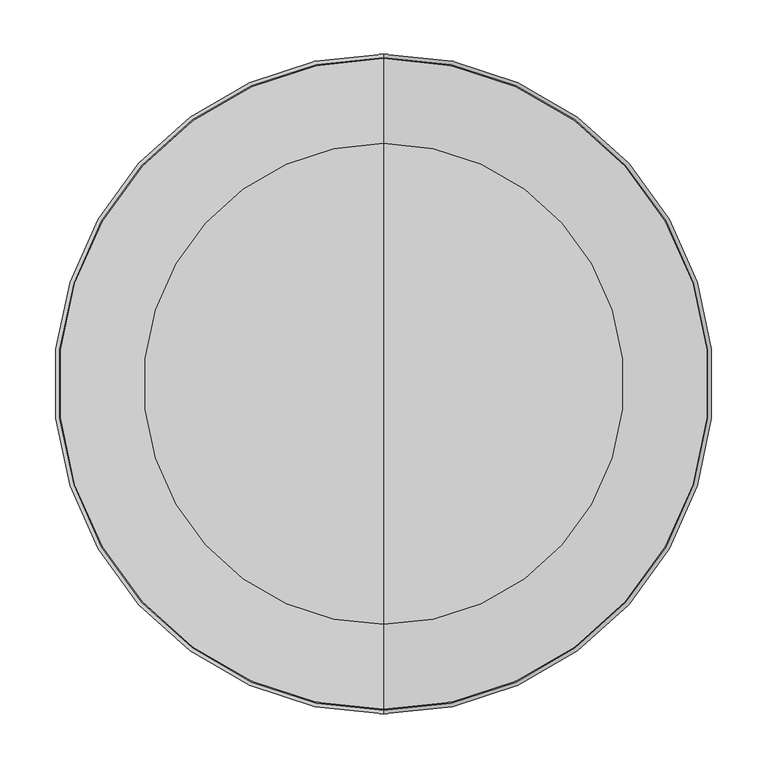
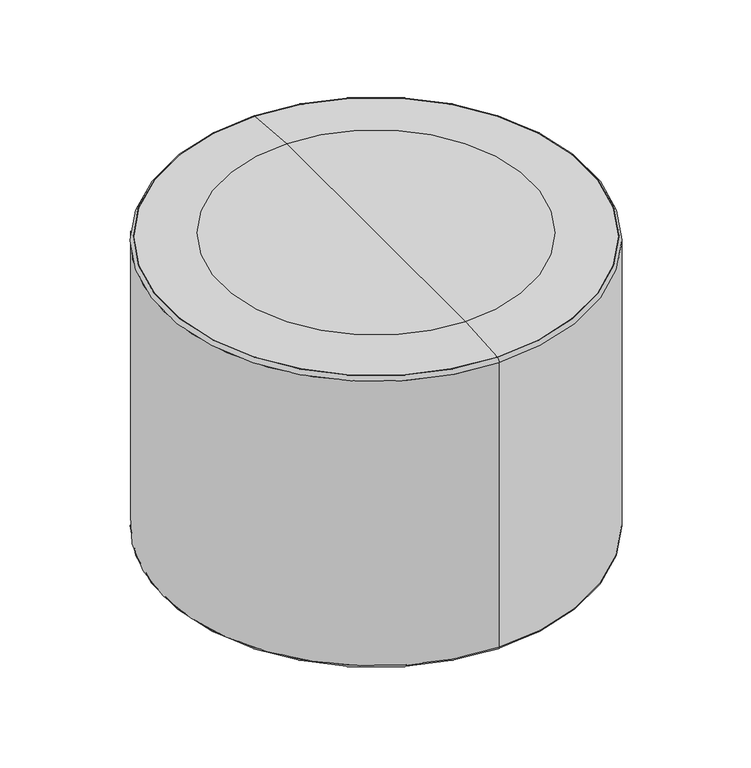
"""IFC4 building model written with IfcOpenShell, lengths in millimetres: furniture geometry, Indiana-Otty-Ottoman_Round : 840-2418RO."""

from ifc_helpers import new_model, si_unit, point, frame, origin, place, context, project, spatial, polyline, circle_curve, ellipse_curve, trimmed, source, transform, mapped, element, save
from ifc_brep_helpers import plane_surface, cylinder_surface, revolved_surface, advanced_brep


def furniture_891c9925(model_context):
    return source(origin(), model_context, "Body", "AdvancedBrep", [
        advanced_brep(
        [(237.5670449, 57.5253392, 19.8875), (218.0814733, 68.7753392, 19.8875), (257.0526165, 46.2753392, 19.8875), (218.4698785, 68.5510934, 4.2458827), (256.6642112, 46.4995851, 4.2458827), (222.3541253, 66.3085225, -0.1125), (252.7799645, 48.742156, -0.1125), (228.675027, 62.6591482, -0.1125), (246.4590628, 52.3915303, -0.1125), (232.0477423, 60.7119101, 3.9179615), (243.0863475, 54.3387684, 3.9179615), (237.5670449, 57.5253392, 3.9179615)],
        [
            (0, 1),
            (1, 2, circle_curve(frame((237.5670449, 57.5253392, 19.8875), z_axis=(0.0, 0.0, 1.0), x_axis=(-0.8660254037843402, 0.5000000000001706, 0.0)), 22.5)),
            (2, 0),
            (2, 1, circle_curve(frame((237.5670449, 57.5253392, 19.8875), z_axis=(0.0, 0.0, 1.0), x_axis=(-0.8660254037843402, 0.5000000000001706, 0.0)), 22.5)),
            (1, 3),
            (3, 4, circle_curve(frame((237.5670449, 57.5253392, 4.2458827), z_axis=(0.0, 0.0, 1.0), x_axis=(-0.8660254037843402, 0.5000000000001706, 0.0)), 22.0515082)),
            (4, 2),
            (4, 3, circle_curve(frame((237.5670449, 57.5253392, 4.2458827), z_axis=(0.0, 0.0, 1.0), x_axis=(-0.8660254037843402, 0.5000000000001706, 0.0)), 22.0515082)),
            (3, 5, circle_curve(frame((222.3541253, 66.3085225, 4.3744851), z_axis=(-0.5000000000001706, -0.8660254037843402, 0.0), x_axis=(0.8660254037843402, -0.5000000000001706, 0.0)), 4.4869851)),
            (5, 6, circle_curve(frame((237.5670449, 57.5253392, -0.1125), z_axis=(0.0, 0.0, 1.0), x_axis=(-0.8660254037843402, 0.5000000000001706, 0.0)), 17.5663665)),
            (6, 4, circle_curve(frame((252.7799645, 48.742156, 4.3744851), z_axis=(-0.5000000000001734, -0.8660254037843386, 0.0), x_axis=(-0.8660254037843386, 0.5000000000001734, 0.0)), 4.4869851)),
            (6, 5, circle_curve(frame((237.5670449, 57.5253392, -0.1125), z_axis=(0.0, 0.0, 1.0), x_axis=(-0.8660254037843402, 0.5000000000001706, 0.0)), 17.5663665)),
            (5, 7),
            (7, 8, circle_curve(frame((237.5670449, 57.5253392, -0.1125), z_axis=(0.0, 0.0, 1.0), x_axis=(-0.8660254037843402, 0.5000000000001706, 0.0)), 10.2676178)),
            (8, 6),
            (8, 7, circle_curve(frame((237.5670449, 57.5253392, -0.1125), z_axis=(0.0, 0.0, 1.0), x_axis=(-0.8660254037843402, 0.5000000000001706, 0.0)), 10.2676178)),
            (7, 9, circle_curve(frame((228.675027, 62.6591482, 3.7842702), z_axis=(-0.5000000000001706, -0.8660254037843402, 0.0), x_axis=(0.8660254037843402, -0.5000000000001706, 0.0)), 3.8967702)),
            (9, 10, circle_curve(frame((237.5670449, 57.5253392, 3.9179615), z_axis=(0.0, 0.0, 1.0), x_axis=(-0.8660254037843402, 0.5000000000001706, 0.0)), 6.3731417)),
            (10, 8, circle_curve(frame((246.4590628, 52.3915303, 3.7842702), z_axis=(-0.5000000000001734, -0.8660254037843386, 0.0), x_axis=(-0.8660254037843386, 0.5000000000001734, 0.0)), 3.8967702)),
            (10, 9, circle_curve(frame((237.5670449, 57.5253392, 3.9179615), z_axis=(0.0, 0.0, 1.0), x_axis=(-0.8660254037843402, 0.5000000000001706, 0.0)), 6.3731417)),
            (9, 11),
            (11, 10),
        ],
        [
            plane_surface(frame((237.5670449, 57.5253392, 19.8875), z_axis=(0.0, 0.0, 1.0000000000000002), x_axis=(-0.8660254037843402, 0.5000000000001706, 0.0))),
            revolved_surface(polyline([(218.4698785, 68.5510934, 4.2458827), (218.0814733, 68.7753392, 19.8875)]), (237.5670449, 57.5253392, 31.0803862), (0.0, 0.0, 1.0)),
            revolved_surface(trimmed(ellipse_curve(frame((222.3541253, 66.3085225, 4.3744851), z_axis=(0.5000000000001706, 0.8660254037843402, 0.0), x_axis=(0.8660254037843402, -0.5000000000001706, 0.0)), 4.4869851, 4.4869851), [point((222.3541253, 66.3085225, -0.1125))], [point((218.4698785, 68.5510934, 4.2458827))], True, "CARTESIAN"), (237.5670449, 57.5253392, 31.0803862), (0.0, 0.0, 1.0)),
            plane_surface(frame((237.5670449, 57.5253392, -0.1125), z_axis=(0.0, 0.0, -1.0000000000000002), x_axis=(-0.8660254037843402, 0.5000000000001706, 0.0))),
            revolved_surface(trimmed(ellipse_curve(frame((228.675027, 62.6591482, 3.7842702), z_axis=(0.5000000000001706, 0.8660254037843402, 0.0), x_axis=(0.8660254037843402, -0.5000000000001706, 0.0)), 3.8967702, 3.8967702), [point((232.0477423, 60.7119101, 3.9179615))], [point((228.675027, 62.6591482, -0.1125))], True, "CARTESIAN"), (237.5670449, 57.5253392, 31.0803862), (0.0, 0.0, 1.0)),
            plane_surface(frame((237.5670449, 57.5253392, 3.9179615), z_axis=(0.0, 0.0, -1.0000000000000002), x_axis=(-0.8660254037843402, 0.5000000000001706, 0.0))),
        ],
        [
            (0, [[1, 2, 3]]),
            (0, [[-3, 4, -1]]),
            (1, [[-2, 5, 6, 7]]),
            (1, [[-4, -7, 8, -5]]),
            (2, [[-6, 9, 10, 11]]),
            (2, [[-8, -11, 12, -9]]),
            (3, [[-10, 13, 14, 15]]),
            (3, [[-12, -15, 16, -13]]),
            (4, [[-14, 17, 18, 19]]),
            (4, [[-16, -19, 20, -17]]),
            (5, [[-18, 21, 22]]),
            (5, [[-20, -22, -21]]),
        ],
    ),
        advanced_brep(
        [(168.6019276, -176.9764263, 19.8875), (168.6019276, -154.4764263, 19.8875), (168.6019276, -199.4764263, 19.8875), (168.6019276, -154.9249181, 4.2458827), (168.6019276, -199.0279346, 4.2458827), (168.6019276, -159.4100599, -0.1125), (168.6019276, -194.5427928, -0.1125), (168.6019276, -166.7088085, -0.1125), (168.6019276, -187.2440442, -0.1125), (168.6019276, -170.6032847, 3.9179615), (168.6019276, -183.349568, 3.9179615), (168.6019276, -176.9764263, 3.9179615)],
        [
            (0, 1),
            (1, 2, circle_curve(frame((168.6019276, -176.9764263, 19.8875), z_axis=(0.0, 0.0, 1.0), x_axis=(0.0, 1.0, 0.0)), 22.5)),
            (2, 0),
            (2, 1, circle_curve(frame((168.6019276, -176.9764263, 19.8875), z_axis=(0.0, 0.0, 1.0), x_axis=(0.0, 1.0, 0.0)), 22.5)),
            (1, 3),
            (3, 4, circle_curve(frame((168.6019276, -176.9764263, 4.2458827), z_axis=(0.0, 0.0, 1.0), x_axis=(0.0, 1.0, 0.0)), 22.0515082)),
            (4, 2),
            (4, 3, circle_curve(frame((168.6019276, -176.9764263, 4.2458827), z_axis=(0.0, 0.0, 1.0), x_axis=(0.0, 1.0, 0.0)), 22.0515082)),
            (3, 5, circle_curve(frame((168.6019276, -159.4100599, 4.3744851), z_axis=(-1.0, 0.0, 0.0), x_axis=(0.0, -1.0, 0.0)), 4.4869851)),
            (5, 6, circle_curve(frame((168.6019276, -176.9764263, -0.1125), z_axis=(0.0, 0.0, 1.0), x_axis=(0.0, 1.0, 0.0)), 17.5663665)),
            (6, 4, circle_curve(frame((168.6019276, -194.5427928, 4.3744851), z_axis=(-1.0, 0.0, 0.0), x_axis=(0.0, 1.0, 0.0)), 4.4869851)),
            (6, 5, circle_curve(frame((168.6019276, -176.9764263, -0.1125), z_axis=(0.0, 0.0, 1.0), x_axis=(0.0, 1.0, 0.0)), 17.5663665)),
            (5, 7),
            (7, 8, circle_curve(frame((168.6019276, -176.9764263, -0.1125), z_axis=(0.0, 0.0, 1.0), x_axis=(0.0, 1.0, 0.0)), 10.2676178)),
            (8, 6),
            (8, 7, circle_curve(frame((168.6019276, -176.9764263, -0.1125), z_axis=(0.0, 0.0, 1.0), x_axis=(0.0, 1.0, 0.0)), 10.2676178)),
            (7, 9, circle_curve(frame((168.6019276, -166.7088085, 3.7842702), z_axis=(-1.0, 0.0, 0.0), x_axis=(0.0, -1.0, 0.0)), 3.8967702)),
            (9, 10, circle_curve(frame((168.6019276, -176.9764263, 3.9179615), z_axis=(0.0, 0.0, 1.0), x_axis=(0.0, 1.0, 0.0)), 6.3731417)),
            (10, 8, circle_curve(frame((168.6019276, -187.2440442, 3.7842702), z_axis=(-1.0, 0.0, 0.0), x_axis=(0.0, 1.0, 0.0)), 3.8967702)),
            (10, 9, circle_curve(frame((168.6019276, -176.9764263, 3.9179615), z_axis=(0.0, 0.0, 1.0), x_axis=(0.0, 1.0, 0.0)), 6.3731417)),
            (9, 11),
            (11, 10),
        ],
        [
            plane_surface(frame((168.6019276, -176.9764263, 19.8875), z_axis=(0.0, 0.0, 1.0), x_axis=(0.0, 1.0, 0.0))),
            revolved_surface(polyline([(168.6019276, -154.9249181, 4.2458827), (168.6019276, -154.4764263, 19.8875)]), (168.6019276, -176.9764263, 31.0803862), (0.0, 0.0, 1.0)),
            revolved_surface(trimmed(ellipse_curve(frame((168.6019276, -159.4100599, 4.3744851), z_axis=(1.0, 0.0, 0.0), x_axis=(0.0, -1.0, 0.0)), 4.4869851, 4.4869851), [point((168.6019276, -159.4100599, -0.1125))], [point((168.6019276, -154.9249181, 4.2458827))], True, "CARTESIAN"), (168.6019276, -176.9764263, 31.0803862), (0.0, 0.0, 1.0)),
            plane_surface(frame((168.6019276, -176.9764263, -0.1125), z_axis=(0.0, 0.0, -1.0), x_axis=(0.0, 1.0, 0.0))),
            revolved_surface(trimmed(ellipse_curve(frame((168.6019276, -166.7088085, 3.7842702), z_axis=(1.0, 0.0, 0.0), x_axis=(0.0, -1.0, 0.0)), 3.8967702, 3.8967702), [point((168.6019276, -170.6032847, 3.9179615))], [point((168.6019276, -166.7088085, -0.1125))], True, "CARTESIAN"), (168.6019276, -176.9764263, 31.0803862), (0.0, 0.0, 1.0)),
            plane_surface(frame((168.6019276, -176.9764263, 3.9179615), z_axis=(0.0, 0.0, -1.0), x_axis=(0.0, 1.0, 0.0))),
        ],
        [
            (0, [[1, 2, 3]]),
            (0, [[-3, 4, -1]]),
            (1, [[-2, 5, 6, 7]]),
            (1, [[-4, -7, 8, -5]]),
            (2, [[-6, 9, 10, 11]]),
            (2, [[-8, -11, 12, -9]]),
            (3, [[-10, 13, 14, 15]]),
            (3, [[-12, -15, 16, -13]]),
            (4, [[-14, 17, 18, 19]]),
            (4, [[-16, -19, 20, -17]]),
            (5, [[-18, 21, 22]]),
            (5, [[-20, -22, -21]]),
        ],
    ),
        advanced_brep(
        [(-68.9651173, -234.5017656, 19.8875), (-49.4795457, -223.2517656, 19.8875), (-88.4506889, -245.7517656, 19.8875), (-49.867951, -223.4760115, 4.2458827), (-88.0622836, -245.5275197, 4.2458827), (-53.7521977, -225.7185823, -0.1125), (-84.1780369, -243.2849488, -0.1125), (-60.0730994, -229.3679567, -0.1125), (-77.8571352, -239.6355745, -0.1125), (-63.4458147, -231.3151948, 3.9179615), (-74.4844199, -237.6883364, 3.9179615), (-68.9651173, -234.5017656, 3.9179615)],
        [
            (0, 1),
            (1, 2, circle_curve(frame((-68.9651173, -234.5017656, 19.8875), z_axis=(0.0, 0.0, 1.0), x_axis=(0.8660254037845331, 0.49999999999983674, 0.0)), 22.5)),
            (2, 0),
            (2, 1, circle_curve(frame((-68.9651173, -234.5017656, 19.8875), z_axis=(0.0, 0.0, 1.0), x_axis=(0.8660254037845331, 0.49999999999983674, 0.0)), 22.5)),
            (1, 3),
            (3, 4, circle_curve(frame((-68.9651173, -234.5017656, 4.2458827), z_axis=(0.0, 0.0, 1.0), x_axis=(0.8660254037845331, 0.49999999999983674, 0.0)), 22.0515082)),
            (4, 2),
            (4, 3, circle_curve(frame((-68.9651173, -234.5017656, 4.2458827), z_axis=(0.0, 0.0, 1.0), x_axis=(0.8660254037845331, 0.49999999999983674, 0.0)), 22.0515082)),
            (3, 5, circle_curve(frame((-53.7521977, -225.7185823, 4.3744851), z_axis=(-0.49999999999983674, 0.8660254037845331, 0.0), x_axis=(-0.8660254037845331, -0.49999999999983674, 0.0)), 4.4869851)),
            (5, 6, circle_curve(frame((-68.9651173, -234.5017656, -0.1125), z_axis=(0.0, 0.0, 1.0), x_axis=(0.8660254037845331, 0.49999999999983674, 0.0)), 17.5663665)),
            (6, 4, circle_curve(frame((-84.1780369, -243.2849488, 4.3744851), z_axis=(-0.49999999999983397, 0.8660254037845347, 0.0), x_axis=(0.8660254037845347, 0.49999999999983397, 0.0)), 4.4869851)),
            (6, 5, circle_curve(frame((-68.9651173, -234.5017656, -0.1125), z_axis=(0.0, 0.0, 1.0), x_axis=(0.8660254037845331, 0.49999999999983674, 0.0)), 17.5663665)),
            (5, 7),
            (7, 8, circle_curve(frame((-68.9651173, -234.5017656, -0.1125), z_axis=(0.0, 0.0, 1.0), x_axis=(0.8660254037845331, 0.49999999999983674, 0.0)), 10.2676178)),
            (8, 6),
            (8, 7, circle_curve(frame((-68.9651173, -234.5017656, -0.1125), z_axis=(0.0, 0.0, 1.0), x_axis=(0.8660254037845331, 0.49999999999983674, 0.0)), 10.2676178)),
            (7, 9, circle_curve(frame((-60.0730994, -229.3679567, 3.7842702), z_axis=(-0.49999999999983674, 0.8660254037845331, 0.0), x_axis=(-0.8660254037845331, -0.49999999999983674, 0.0)), 3.8967702)),
            (9, 10, circle_curve(frame((-68.9651173, -234.5017656, 3.9179615), z_axis=(0.0, 0.0, 1.0), x_axis=(0.8660254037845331, 0.49999999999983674, 0.0)), 6.3731417)),
            (10, 8, circle_curve(frame((-77.8571352, -239.6355745, 3.7842702), z_axis=(-0.49999999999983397, 0.8660254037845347, 0.0), x_axis=(0.8660254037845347, 0.49999999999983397, 0.0)), 3.8967702)),
            (10, 9, circle_curve(frame((-68.9651173, -234.5017656, 3.9179615), z_axis=(0.0, 0.0, 1.0), x_axis=(0.8660254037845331, 0.49999999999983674, 0.0)), 6.3731417)),
            (9, 11),
            (11, 10),
        ],
        [
            plane_surface(frame((-68.9651173, -234.5017656, 19.8875), z_axis=(0.0, 0.0, 1.0000000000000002), x_axis=(0.8660254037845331, 0.49999999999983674, 0.0))),
            revolved_surface(polyline([(-49.867951, -223.4760115, 4.2458827), (-49.4795457, -223.2517656, 19.8875)]), (-68.9651173, -234.5017656, 31.0803862), (0.0, 0.0, 1.0)),
            revolved_surface(trimmed(ellipse_curve(frame((-53.7521977, -225.7185823, 4.3744851), z_axis=(0.49999999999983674, -0.8660254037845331, 0.0), x_axis=(-0.8660254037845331, -0.49999999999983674, 0.0)), 4.4869851, 4.4869851), [point((-53.7521977, -225.7185823, -0.1125))], [point((-49.867951, -223.4760115, 4.2458827))], True, "CARTESIAN"), (-68.9651173, -234.5017656, 31.0803862), (0.0, 0.0, 1.0)),
            plane_surface(frame((-68.9651173, -234.5017656, -0.1125), z_axis=(0.0, 0.0, -1.0000000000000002), x_axis=(0.8660254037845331, 0.49999999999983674, 0.0))),
            revolved_surface(trimmed(ellipse_curve(frame((-60.0730994, -229.3679567, 3.7842702), z_axis=(0.49999999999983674, -0.8660254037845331, 0.0), x_axis=(-0.8660254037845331, -0.49999999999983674, 0.0)), 3.8967702, 3.8967702), [point((-63.4458147, -231.3151948, 3.9179615))], [point((-60.0730994, -229.3679567, -0.1125))], True, "CARTESIAN"), (-68.9651173, -234.5017656, 31.0803862), (0.0, 0.0, 1.0)),
            plane_surface(frame((-68.9651173, -234.5017656, 3.9179615), z_axis=(0.0, 0.0, -1.0000000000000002), x_axis=(0.8660254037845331, 0.49999999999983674, 0.0))),
        ],
        [
            (0, [[1, 2, 3]]),
            (0, [[-3, 4, -1]]),
            (1, [[-2, 5, 6, 7]]),
            (1, [[-4, -7, 8, -5]]),
            (2, [[-6, 9, 10, 11]]),
            (2, [[-8, -11, 12, -9]]),
            (3, [[-10, 13, 14, 15]]),
            (3, [[-12, -15, 16, -13]]),
            (4, [[-14, 17, 18, 19]]),
            (4, [[-16, -19, 20, -17]]),
            (5, [[-18, 21, 22]]),
            (5, [[-20, -22, -21]]),
        ],
    ),
        advanced_brep(
        [(-237.5670449, -57.5253392, 19.8875), (-218.0814733, -68.7753392, 19.8875), (-257.0526165, -46.2753392, 19.8875), (-218.4698785, -68.5510934, 4.2458827), (-256.6642112, -46.4995851, 4.2458827), (-222.3541253, -66.3085225, -0.1125), (-252.7799645, -48.742156, -0.1125), (-228.675027, -62.6591482, -0.1125), (-246.4590628, -52.3915303, -0.1125), (-232.0477423, -60.7119101, 3.9179615), (-243.0863475, -54.3387684, 3.9179615), (-237.5670449, -57.5253392, 3.9179615)],
        [
            (0, 1),
            (1, 2, circle_curve(frame((-237.5670449, -57.5253392, 19.8875), z_axis=(0.0, 0.0, 1.0), x_axis=(0.8660254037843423, -0.500000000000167, 0.0)), 22.5)),
            (2, 0),
            (2, 1, circle_curve(frame((-237.5670449, -57.5253392, 19.8875), z_axis=(0.0, 0.0, 1.0), x_axis=(0.8660254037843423, -0.500000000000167, 0.0)), 22.5)),
            (1, 3),
            (3, 4, circle_curve(frame((-237.5670449, -57.5253392, 4.2458827), z_axis=(0.0, 0.0, 1.0), x_axis=(0.8660254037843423, -0.500000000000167, 0.0)), 22.0515082)),
            (4, 2),
            (4, 3, circle_curve(frame((-237.5670449, -57.5253392, 4.2458827), z_axis=(0.0, 0.0, 1.0), x_axis=(0.8660254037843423, -0.500000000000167, 0.0)), 22.0515082)),
            (3, 5, circle_curve(frame((-222.3541253, -66.3085225, 4.3744851), z_axis=(0.500000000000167, 0.8660254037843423, 0.0), x_axis=(-0.8660254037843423, 0.500000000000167, 0.0)), 4.4869851)),
            (5, 6, circle_curve(frame((-237.5670449, -57.5253392, -0.1125), z_axis=(0.0, 0.0, 1.0), x_axis=(0.8660254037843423, -0.500000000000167, 0.0)), 17.5663665)),
            (6, 4, circle_curve(frame((-252.7799645, -48.742156, 4.3744851), z_axis=(0.5000000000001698, 0.8660254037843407, 0.0), x_axis=(0.8660254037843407, -0.5000000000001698, 0.0)), 4.4869851)),
            (6, 5, circle_curve(frame((-237.5670449, -57.5253392, -0.1125), z_axis=(0.0, 0.0, 1.0), x_axis=(0.8660254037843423, -0.500000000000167, 0.0)), 17.5663665)),
            (5, 7),
            (7, 8, circle_curve(frame((-237.5670449, -57.5253392, -0.1125), z_axis=(0.0, 0.0, 1.0), x_axis=(0.8660254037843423, -0.500000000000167, 0.0)), 10.2676178)),
            (8, 6),
            (8, 7, circle_curve(frame((-237.5670449, -57.5253392, -0.1125), z_axis=(0.0, 0.0, 1.0), x_axis=(0.8660254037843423, -0.500000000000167, 0.0)), 10.2676178)),
            (7, 9, circle_curve(frame((-228.675027, -62.6591482, 3.7842702), z_axis=(0.500000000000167, 0.8660254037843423, 0.0), x_axis=(-0.8660254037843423, 0.500000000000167, 0.0)), 3.8967702)),
            (9, 10, circle_curve(frame((-237.5670449, -57.5253392, 3.9179615), z_axis=(0.0, 0.0, 1.0), x_axis=(0.8660254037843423, -0.500000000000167, 0.0)), 6.3731417)),
            (10, 8, circle_curve(frame((-246.4590628, -52.3915303, 3.7842702), z_axis=(0.5000000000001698, 0.8660254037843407, 0.0), x_axis=(0.8660254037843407, -0.5000000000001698, 0.0)), 3.8967702)),
            (10, 9, circle_curve(frame((-237.5670449, -57.5253392, 3.9179615), z_axis=(0.0, 0.0, 1.0), x_axis=(0.8660254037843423, -0.500000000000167, 0.0)), 6.3731417)),
            (9, 11),
            (11, 10),
        ],
        [
            plane_surface(frame((-237.5670449, -57.5253392, 19.8875), z_axis=(0.0, 0.0, 1.0000000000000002), x_axis=(0.8660254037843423, -0.500000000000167, 0.0))),
            revolved_surface(polyline([(-218.4698785, -68.5510934, 4.2458827), (-218.0814733, -68.7753392, 19.8875)]), (-237.5670449, -57.5253392, 31.0803862), (0.0, 0.0, 1.0)),
            revolved_surface(trimmed(ellipse_curve(frame((-222.3541253, -66.3085225, 4.3744851), z_axis=(-0.500000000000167, -0.8660254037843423, 0.0), x_axis=(-0.8660254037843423, 0.500000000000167, 0.0)), 4.4869851, 4.4869851), [point((-222.3541253, -66.3085225, -0.1125))], [point((-218.4698785, -68.5510934, 4.2458827))], True, "CARTESIAN"), (-237.5670449, -57.5253392, 31.0803862), (0.0, 0.0, 1.0)),
            plane_surface(frame((-237.5670449, -57.5253392, -0.1125), z_axis=(0.0, 0.0, -1.0000000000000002), x_axis=(0.8660254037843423, -0.500000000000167, 0.0))),
            revolved_surface(trimmed(ellipse_curve(frame((-228.675027, -62.6591482, 3.7842702), z_axis=(-0.500000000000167, -0.8660254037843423, 0.0), x_axis=(-0.8660254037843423, 0.500000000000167, 0.0)), 3.8967702, 3.8967702), [point((-232.0477423, -60.7119101, 3.9179615))], [point((-228.675027, -62.6591482, -0.1125))], True, "CARTESIAN"), (-237.5670449, -57.5253392, 31.0803862), (0.0, 0.0, 1.0)),
            plane_surface(frame((-237.5670449, -57.5253392, 3.9179615), z_axis=(0.0, 0.0, -1.0000000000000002), x_axis=(0.8660254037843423, -0.500000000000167, 0.0))),
        ],
        [
            (0, [[1, 2, 3]]),
            (0, [[-3, 4, -1]]),
            (1, [[-2, 5, 6, 7]]),
            (1, [[-4, -7, 8, -5]]),
            (2, [[-6, 9, 10, 11]]),
            (2, [[-8, -11, 12, -9]]),
            (3, [[-10, 13, 14, 15]]),
            (3, [[-12, -15, 16, -13]]),
            (4, [[-14, 17, 18, 19]]),
            (4, [[-16, -19, 20, -17]]),
            (5, [[-18, 21, 22]]),
            (5, [[-20, -22, -21]]),
        ],
    ),
        advanced_brep(
        [(68.9651173, 234.5017656, 19.8875), (49.4795457, 223.2517656, 19.8875), (88.4506889, 245.7517656, 19.8875), (49.867951, 223.4760115, 4.2458827), (88.0622836, 245.5275197, 4.2458827), (53.7521977, 225.7185823, -0.1125), (84.1780369, 243.2849488, -0.1125), (60.0730994, 229.3679567, -0.1125), (77.8571352, 239.6355745, -0.1125), (63.4458147, 231.3151948, 3.9179615), (74.4844199, 237.6883364, 3.9179615), (68.9651173, 234.5017656, 3.9179615)],
        [
            (0, 1),
            (1, 2, circle_curve(frame((68.9651173, 234.5017656, 19.8875), z_axis=(0.0, 0.0, 1.0), x_axis=(-0.8660254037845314, -0.49999999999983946, 0.0)), 22.5)),
            (2, 0),
            (2, 1, circle_curve(frame((68.9651173, 234.5017656, 19.8875), z_axis=(0.0, 0.0, 1.0), x_axis=(-0.8660254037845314, -0.49999999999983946, 0.0)), 22.5)),
            (1, 3),
            (3, 4, circle_curve(frame((68.9651173, 234.5017656, 4.2458827), z_axis=(0.0, 0.0, 1.0), x_axis=(-0.8660254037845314, -0.49999999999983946, 0.0)), 22.0515082)),
            (4, 2),
            (4, 3, circle_curve(frame((68.9651173, 234.5017656, 4.2458827), z_axis=(0.0, 0.0, 1.0), x_axis=(-0.8660254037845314, -0.49999999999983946, 0.0)), 22.0515082)),
            (3, 5, circle_curve(frame((53.7521977, 225.7185823, 4.3744851), z_axis=(0.49999999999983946, -0.8660254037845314, 0.0), x_axis=(0.8660254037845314, 0.49999999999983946, 0.0)), 4.4869851)),
            (5, 6, circle_curve(frame((68.9651173, 234.5017656, -0.1125), z_axis=(0.0, 0.0, 1.0), x_axis=(-0.8660254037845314, -0.49999999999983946, 0.0)), 17.5663665)),
            (6, 4, circle_curve(frame((84.1780369, 243.2849488, 4.3744851), z_axis=(0.4999999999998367, -0.8660254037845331, 0.0), x_axis=(-0.8660254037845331, -0.4999999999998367, 0.0)), 4.4869851)),
            (6, 5, circle_curve(frame((68.9651173, 234.5017656, -0.1125), z_axis=(0.0, 0.0, 1.0), x_axis=(-0.8660254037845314, -0.49999999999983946, 0.0)), 17.5663665)),
            (5, 7),
            (7, 8, circle_curve(frame((68.9651173, 234.5017656, -0.1125), z_axis=(0.0, 0.0, 1.0), x_axis=(-0.8660254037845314, -0.49999999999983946, 0.0)), 10.2676178)),
            (8, 6),
            (8, 7, circle_curve(frame((68.9651173, 234.5017656, -0.1125), z_axis=(0.0, 0.0, 1.0), x_axis=(-0.8660254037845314, -0.49999999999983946, 0.0)), 10.2676178)),
            (7, 9, circle_curve(frame((60.0730994, 229.3679567, 3.7842702), z_axis=(0.49999999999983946, -0.8660254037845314, 0.0), x_axis=(0.8660254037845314, 0.49999999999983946, 0.0)), 3.8967702)),
            (9, 10, circle_curve(frame((68.9651173, 234.5017656, 3.9179615), z_axis=(0.0, 0.0, 1.0), x_axis=(-0.8660254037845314, -0.49999999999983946, 0.0)), 6.3731417)),
            (10, 8, circle_curve(frame((77.8571352, 239.6355745, 3.7842702), z_axis=(0.4999999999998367, -0.8660254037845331, 0.0), x_axis=(-0.8660254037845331, -0.4999999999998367, 0.0)), 3.8967702)),
            (10, 9, circle_curve(frame((68.9651173, 234.5017656, 3.9179615), z_axis=(0.0, 0.0, 1.0), x_axis=(-0.8660254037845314, -0.49999999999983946, 0.0)), 6.3731417)),
            (9, 11),
            (11, 10),
        ],
        [
            plane_surface(frame((68.9651173, 234.5017656, 19.8875), z_axis=(0.0, 0.0, 1.0), x_axis=(-0.8660254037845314, -0.49999999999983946, 0.0))),
            revolved_surface(polyline([(49.867951, 223.4760115, 4.2458827), (49.4795457, 223.2517656, 19.8875)]), (68.9651173, 234.5017656, 31.0803862), (0.0, 0.0, 1.0)),
            revolved_surface(trimmed(ellipse_curve(frame((53.7521977, 225.7185823, 4.3744851), z_axis=(-0.49999999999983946, 0.8660254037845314, 0.0), x_axis=(0.8660254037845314, 0.49999999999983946, 0.0)), 4.4869851, 4.4869851), [point((53.7521977, 225.7185823, -0.1125))], [point((49.867951, 223.4760115, 4.2458827))], True, "CARTESIAN"), (68.9651173, 234.5017656, 31.0803862), (0.0, 0.0, 1.0)),
            plane_surface(frame((68.9651173, 234.5017656, -0.1125), z_axis=(0.0, 0.0, -1.0), x_axis=(-0.8660254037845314, -0.49999999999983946, 0.0))),
            revolved_surface(trimmed(ellipse_curve(frame((60.0730994, 229.3679567, 3.7842702), z_axis=(-0.49999999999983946, 0.8660254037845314, 0.0), x_axis=(0.8660254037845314, 0.49999999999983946, 0.0)), 3.8967702, 3.8967702), [point((63.4458147, 231.3151948, 3.9179615))], [point((60.0730994, 229.3679567, -0.1125))], True, "CARTESIAN"), (68.9651173, 234.5017656, 31.0803862), (0.0, 0.0, 1.0)),
            plane_surface(frame((68.9651173, 234.5017656, 3.9179615), z_axis=(0.0, 0.0, -1.0), x_axis=(-0.8660254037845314, -0.49999999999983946, 0.0))),
        ],
        [
            (0, [[1, 2, 3]]),
            (0, [[-3, 4, -1]]),
            (1, [[-2, 5, 6, 7]]),
            (1, [[-4, -7, 8, -5]]),
            (2, [[-6, 9, 10, 11]]),
            (2, [[-8, -11, 12, -9]]),
            (3, [[-10, 13, 14, 15]]),
            (3, [[-12, -15, 16, -13]]),
            (4, [[-14, 17, 18, 19]]),
            (4, [[-16, -19, 20, -17]]),
            (5, [[-18, 21, 22]]),
            (5, [[-20, -22, -21]]),
        ],
    ),
        advanced_brep(
        [(-168.6019276, 176.9764263, 19.8875), (-168.6019276, 154.4764263, 19.8875), (-168.6019276, 199.4764263, 19.8875), (-168.6019276, 154.9249181, 4.2458827), (-168.6019276, 199.0279346, 4.2458827), (-168.6019276, 159.4100599, -0.1125), (-168.6019276, 194.5427928, -0.1125), (-168.6019276, 166.7088085, -0.1125), (-168.6019276, 187.2440442, -0.1125), (-168.6019276, 170.6032847, 3.9179615), (-168.6019276, 183.349568, 3.9179615), (-168.6019276, 176.9764263, 3.9179615)],
        [
            (0, 1),
            (1, 2, circle_curve(frame((-168.6019276, 176.9764263, 19.8875), z_axis=(0.0, 0.0, 1.0), x_axis=(0.0, -1.0, 0.0)), 22.5)),
            (2, 0),
            (2, 1, circle_curve(frame((-168.6019276, 176.9764263, 19.8875), z_axis=(0.0, 0.0, 1.0), x_axis=(0.0, -1.0, 0.0)), 22.5)),
            (1, 3),
            (3, 4, circle_curve(frame((-168.6019276, 176.9764263, 4.2458827), z_axis=(0.0, 0.0, 1.0), x_axis=(0.0, -1.0, 0.0)), 22.0515082)),
            (4, 2),
            (4, 3, circle_curve(frame((-168.6019276, 176.9764263, 4.2458827), z_axis=(0.0, 0.0, 1.0), x_axis=(0.0, -1.0, 0.0)), 22.0515082)),
            (3, 5, circle_curve(frame((-168.6019276, 159.4100599, 4.3744851), z_axis=(1.0, 0.0, 0.0), x_axis=(0.0, 1.0, 0.0)), 4.4869851)),
            (5, 6, circle_curve(frame((-168.6019276, 176.9764263, -0.1125), z_axis=(0.0, 0.0, 1.0), x_axis=(0.0, -1.0, 0.0)), 17.5663665)),
            (6, 4, circle_curve(frame((-168.6019276, 194.5427928, 4.3744851), z_axis=(1.0, 0.0, 0.0), x_axis=(0.0, -1.0, 0.0)), 4.4869851)),
            (6, 5, circle_curve(frame((-168.6019276, 176.9764263, -0.1125), z_axis=(0.0, 0.0, 1.0), x_axis=(0.0, -1.0, 0.0)), 17.5663665)),
            (5, 7),
            (7, 8, circle_curve(frame((-168.6019276, 176.9764263, -0.1125), z_axis=(0.0, 0.0, 1.0), x_axis=(0.0, -1.0, 0.0)), 10.2676178)),
            (8, 6),
            (8, 7, circle_curve(frame((-168.6019276, 176.9764263, -0.1125), z_axis=(0.0, 0.0, 1.0), x_axis=(0.0, -1.0, 0.0)), 10.2676178)),
            (7, 9, circle_curve(frame((-168.6019276, 166.7088085, 3.7842702), z_axis=(1.0, 0.0, 0.0), x_axis=(0.0, 1.0, 0.0)), 3.8967702)),
            (9, 10, circle_curve(frame((-168.6019276, 176.9764263, 3.9179615), z_axis=(0.0, 0.0, 1.0), x_axis=(0.0, -1.0, 0.0)), 6.3731417)),
            (10, 8, circle_curve(frame((-168.6019276, 187.2440442, 3.7842702), z_axis=(1.0, 0.0, 0.0), x_axis=(0.0, -1.0, 0.0)), 3.8967702)),
            (10, 9, circle_curve(frame((-168.6019276, 176.9764263, 3.9179615), z_axis=(0.0, 0.0, 1.0), x_axis=(0.0, -1.0, 0.0)), 6.3731417)),
            (9, 11),
            (11, 10),
        ],
        [
            plane_surface(frame((-168.6019276, 176.9764263, 19.8875), z_axis=(0.0, 0.0, 1.0), x_axis=(0.0, -1.0, 0.0))),
            revolved_surface(polyline([(-168.6019276, 154.9249181, 4.2458827), (-168.6019276, 154.4764263, 19.8875)]), (-168.6019276, 176.9764263, 31.0803862), (0.0, 0.0, 1.0)),
            revolved_surface(trimmed(ellipse_curve(frame((-168.6019276, 159.4100599, 4.3744851), z_axis=(-1.0, 0.0, 0.0), x_axis=(0.0, 1.0, 0.0)), 4.4869851, 4.4869851), [point((-168.6019276, 159.4100599, -0.1125))], [point((-168.6019276, 154.9249181, 4.2458827))], True, "CARTESIAN"), (-168.6019276, 176.9764263, 31.0803862), (0.0, 0.0, 1.0)),
            plane_surface(frame((-168.6019276, 176.9764263, -0.1125), z_axis=(0.0, 0.0, -1.0), x_axis=(0.0, -1.0, 0.0))),
            revolved_surface(trimmed(ellipse_curve(frame((-168.6019276, 166.7088085, 3.7842702), z_axis=(-1.0, 0.0, 0.0), x_axis=(0.0, 1.0, 0.0)), 3.8967702, 3.8967702), [point((-168.6019276, 170.6032847, 3.9179615))], [point((-168.6019276, 166.7088085, -0.1125))], True, "CARTESIAN"), (-168.6019276, 176.9764263, 31.0803862), (0.0, 0.0, 1.0)),
            plane_surface(frame((-168.6019276, 176.9764263, 3.9179615), z_axis=(0.0, 0.0, -1.0), x_axis=(0.0, -1.0, 0.0))),
        ],
        [
            (0, [[1, 2, 3]]),
            (0, [[-3, 4, -1]]),
            (1, [[-2, 5, 6, 7]]),
            (1, [[-4, -7, 8, -5]]),
            (2, [[-6, 9, 10, 11]]),
            (2, [[-8, -11, 12, -9]]),
            (3, [[-10, 13, 14, 15]]),
            (3, [[-12, -15, 16, -13]]),
            (4, [[-14, 17, 18, 19]]),
            (4, [[-16, -19, 20, -17]]),
            (5, [[-18, 21, 22]]),
            (5, [[-20, -22, -21]]),
        ],
    ),
        advanced_brep(
        [(0.0, 304.8, 14.675), (0.0, 301.625, 11.5), (0.0, -301.625, 11.5), (0.0, -304.8, 14.675), (0.0, 304.8, 445.2), (0.0, -304.8, 445.2), (0.0, 301.5317905, 451.4073863), (0.0, -301.5317905, 451.4073863), (0.0, 300.8, 451.1999966), (0.0, -300.8, 451.1999966), (0.0, 222.25, 457.2), (0.0, -222.25, 457.2), (0.0, 0.0, 457.2), (0.0, 0.0, 11.5), (-249.0764199, -77.4601615, 11.5), (-226.0576699, -37.590517, 11.5), (-57.4557423, -254.4365878, 11.5), (-80.4744923, -214.5669433, 11.5), (-191.6206776, 176.9764263, 11.5), (-145.5831776, 176.9764263, 11.5), (57.4557423, 254.4365878, 11.5), (80.4744923, 214.5669433, 11.5), (191.6206776, -176.9764263, 11.5), (145.5831776, -176.9764263, 11.5), (249.0764199, 77.4601615, 11.5), (226.0576699, 37.590517, 11.5), (-226.0576699, -37.590517, 19.834375), (-249.0764199, -77.4601615, 19.834375), (-80.4744923, -214.5669433, 19.834375), (-57.4557423, -254.4365878, 19.834375), (80.4744923, 214.5669433, 19.834375), (57.4557423, 254.4365878, 19.834375), (-145.5831776, 176.9764263, 19.834375), (-191.6206776, 176.9764263, 19.834375), (145.5831776, -176.9764263, 19.834375), (191.6206776, -176.9764263, 19.834375), (226.0576699, 37.590517, 19.834375), (249.0764199, 77.4601615, 19.834375)],
        [
            (0, 1, circle_curve(frame((0.0, 301.625, 14.675), z_axis=(-1.0, 0.0, 0.0), x_axis=(0.0, 1.0, 0.0)), 3.175)),
            (1, 2, circle_curve(frame((0.0, 0.0, 11.5), z_axis=(0.0, 0.0, 1.0), x_axis=(0.0, 1.0, 0.0)), 301.625)),
            (2, 3, circle_curve(frame((0.0, -301.625, 14.675), z_axis=(-1.0, 0.0, 0.0), x_axis=(0.0, -1.0, 0.0)), 3.175)),
            (3, 0, circle_curve(frame((0.0, 0.0, 14.675), z_axis=(0.0, 0.0, -1.0), x_axis=(0.0, 1.0, 0.0)), 304.8)),
            (0, 3, circle_curve(frame((0.0, 0.0, 14.675), z_axis=(0.0, 0.0, -1.0), x_axis=(0.0, 1.0, 0.0)), 304.8)),
            (2, 1, circle_curve(frame((0.0, 0.0, 11.5), z_axis=(0.0, 0.0, 1.0), x_axis=(0.0, 1.0, 0.0)), 301.625)),
            (4, 0),
            (3, 5),
            (5, 4, circle_curve(frame((0.0, 0.0, 445.2), z_axis=(0.0, 0.0, -1.0), x_axis=(0.0, 1.0, 0.0)), 304.8)),
            (4, 5, circle_curve(frame((0.0, 0.0, 445.2), z_axis=(0.0, 0.0, -1.0), x_axis=(0.0, 1.0, 0.0)), 304.8)),
            (6, 4, circle_curve(frame((0.0, 297.2709786, 445.2), z_axis=(-1.0, 0.0, 0.0), x_axis=(0.0, 1.0, 0.0)), 7.5290214)),
            (5, 7, circle_curve(frame((0.0, -297.2709786, 445.2), z_axis=(-1.0, 0.0, 0.0), x_axis=(0.0, -1.0, 0.0)), 7.5290214)),
            (7, 6, circle_curve(frame((0.0, 0.0, 451.4073863), z_axis=(0.0, 0.0, -1.0), x_axis=(0.0, 1.0, 0.0)), 301.5317905)),
            (6, 7, circle_curve(frame((0.0, 0.0, 451.4073863), z_axis=(0.0, 0.0, -1.0), x_axis=(0.0, 1.0, 0.0)), 301.5317905)),
            (8, 6, circle_curve(frame((0.0, 301.2520185, 450.999799), z_axis=(-1.0, 0.0, 0.0), x_axis=(0.0, 1.0, 0.0)), 0.4943681)),
            (7, 9, circle_curve(frame((0.0, -301.2520185, 450.999799), z_axis=(-1.0, 0.0, 0.0), x_axis=(0.0, -1.0, 0.0)), 0.4943681)),
            (9, 8, circle_curve(frame((0.0, 0.0, 451.1999966), z_axis=(0.0, 0.0, -1.0), x_axis=(0.0, 1.0, 0.0)), 300.8)),
            (8, 9, circle_curve(frame((0.0, 0.0, 451.1999966), z_axis=(0.0, 0.0, -1.0), x_axis=(0.0, 1.0, 0.0)), 300.8)),
            (10, 8, circle_curve(frame((0.0, 222.25, -59.9749222), z_axis=(-1.0, 0.0, 0.0), x_axis=(0.0, 1.0, 0.0)), 517.1749222)),
            (9, 11, circle_curve(frame((0.0, -222.25, -59.9749222), z_axis=(-1.0, 0.0, 0.0), x_axis=(0.0, -1.0, 0.0)), 517.1749222)),
            (11, 10, circle_curve(frame((0.0, 0.0, 457.2), z_axis=(0.0, 0.0, -1.0), x_axis=(0.0, 1.0, 0.0)), 222.25)),
            (10, 11, circle_curve(frame((0.0, 0.0, 457.2), z_axis=(0.0, 0.0, -1.0), x_axis=(0.0, 1.0, 0.0)), 222.25)),
            (12, 10),
            (11, 12),
            (1, 13),
            (13, 2),
            (14, 15, circle_curve(frame((-237.5670449, -57.5253392, 11.5), z_axis=(0.0, 0.0, 1.0), x_axis=(-0.500000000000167, -0.8660254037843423, 0.0)), 23.01875)),
            (15, 14, circle_curve(frame((-237.5670449, -57.5253392, 11.5), z_axis=(0.0, 0.0, 1.0), x_axis=(-0.500000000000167, -0.8660254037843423, 0.0)), 23.01875)),
            (16, 17, circle_curve(frame((-68.9651173, -234.5017656, 11.5), z_axis=(0.0, 0.0, 1.0), x_axis=(0.49999999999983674, -0.8660254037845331, 0.0)), 23.01875)),
            (17, 16, circle_curve(frame((-68.9651173, -234.5017656, 11.5), z_axis=(0.0, 0.0, 1.0), x_axis=(0.49999999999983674, -0.8660254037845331, 0.0)), 23.01875)),
            (18, 19, circle_curve(frame((-168.6019276, 176.9764263, 11.5), z_axis=(0.0, 0.0, 1.0), x_axis=(-1.0, 0.0, 0.0)), 23.01875)),
            (19, 18, circle_curve(frame((-168.6019276, 176.9764263, 11.5), z_axis=(0.0, 0.0, 1.0), x_axis=(-1.0, 0.0, 0.0)), 23.01875)),
            (20, 21, circle_curve(frame((68.9651173, 234.5017656, 11.5), z_axis=(0.0, 0.0, 1.0), x_axis=(-0.49999999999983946, 0.8660254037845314, 0.0)), 23.01875)),
            (21, 20, circle_curve(frame((68.9651173, 234.5017656, 11.5), z_axis=(0.0, 0.0, 1.0), x_axis=(-0.49999999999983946, 0.8660254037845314, 0.0)), 23.01875)),
            (22, 23, circle_curve(frame((168.6019276, -176.9764263, 11.5), z_axis=(0.0, 0.0, 1.0), x_axis=(1.0, 0.0, 0.0)), 23.01875)),
            (23, 22, circle_curve(frame((168.6019276, -176.9764263, 11.5), z_axis=(0.0, 0.0, 1.0), x_axis=(1.0, 0.0, 0.0)), 23.01875)),
            (24, 25, circle_curve(frame((237.5670449, 57.5253392, 11.5), z_axis=(0.0, 0.0, 1.0), x_axis=(0.5000000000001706, 0.8660254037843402, 0.0)), 23.01875)),
            (25, 24, circle_curve(frame((237.5670449, 57.5253392, 11.5), z_axis=(0.0, 0.0, 1.0), x_axis=(0.5000000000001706, 0.8660254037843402, 0.0)), 23.01875)),
            (26, 27, circle_curve(frame((-237.5670449, -57.5253392, 19.834375), z_axis=(0.0, 0.0, -1.0), x_axis=(-0.500000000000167, -0.8660254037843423, 0.0)), 23.01875)),
            (27, 26, circle_curve(frame((-237.5670449, -57.5253392, 19.834375), z_axis=(0.0, 0.0, -1.0), x_axis=(-0.500000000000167, -0.8660254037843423, 0.0)), 23.01875)),
            (26, 15),
            (14, 27),
            (28, 29, circle_curve(frame((-68.9651173, -234.5017656, 19.834375), z_axis=(0.0, 0.0, -1.0), x_axis=(0.49999999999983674, -0.8660254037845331, 0.0)), 23.01875)),
            (29, 28, circle_curve(frame((-68.9651173, -234.5017656, 19.834375), z_axis=(0.0, 0.0, -1.0), x_axis=(0.49999999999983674, -0.8660254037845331, 0.0)), 23.01875)),
            (28, 17),
            (16, 29),
            (30, 31, circle_curve(frame((68.9651173, 234.5017656, 19.834375), z_axis=(0.0, 0.0, -1.0), x_axis=(-0.49999999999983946, 0.8660254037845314, 0.0)), 23.01875)),
            (31, 30, circle_curve(frame((68.9651173, 234.5017656, 19.834375), z_axis=(0.0, 0.0, -1.0), x_axis=(-0.49999999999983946, 0.8660254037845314, 0.0)), 23.01875)),
            (30, 21),
            (20, 31),
            (32, 33, circle_curve(frame((-168.6019276, 176.9764263, 19.834375), z_axis=(0.0, 0.0, -1.0), x_axis=(-1.0, 0.0, 0.0)), 23.01875)),
            (33, 32, circle_curve(frame((-168.6019276, 176.9764263, 19.834375), z_axis=(0.0, 0.0, -1.0), x_axis=(-1.0, 0.0, 0.0)), 23.01875)),
            (32, 19),
            (18, 33),
            (34, 35, circle_curve(frame((168.6019276, -176.9764263, 19.834375), z_axis=(0.0, 0.0, -1.0), x_axis=(1.0, 0.0, 0.0)), 23.01875)),
            (35, 34, circle_curve(frame((168.6019276, -176.9764263, 19.834375), z_axis=(0.0, 0.0, -1.0), x_axis=(1.0, 0.0, 0.0)), 23.01875)),
            (34, 23),
            (22, 35),
            (36, 37, circle_curve(frame((237.5670449, 57.5253392, 19.834375), z_axis=(0.0, 0.0, -1.0), x_axis=(0.5000000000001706, 0.8660254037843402, 0.0)), 23.01875)),
            (37, 36, circle_curve(frame((237.5670449, 57.5253392, 19.834375), z_axis=(0.0, 0.0, -1.0), x_axis=(0.5000000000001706, 0.8660254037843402, 0.0)), 23.01875)),
            (36, 25),
            (24, 37),
        ],
        [
            revolved_surface(trimmed(ellipse_curve(frame((0.0, 301.625, 14.675), z_axis=(1.0, 0.0, 0.0), x_axis=(0.0, 1.0, 0.0)), 3.175, 3.175), [point((0.0, 301.625, 11.5))], [point((0.0, 304.8, 14.675))], True, "CARTESIAN"), (0.0, 0.0, 711.2), (0.0, 0.0, 1.0)),
            cylinder_surface(frame((0.0, 0.0, 711.2), z_axis=(0.0, 0.0, 1.0), x_axis=(0.0, 1.0, 0.0)), 304.8),
            revolved_surface(trimmed(ellipse_curve(frame((0.0, 297.2709786, 445.2), z_axis=(1.0, 0.0, 0.0), x_axis=(0.0, 1.0, 0.0)), 7.5290214, 7.5290214), [point((0.0, 304.8, 445.2))], [point((0.0, 301.5317905, 451.4073863))], True, "CARTESIAN"), (0.0, 0.0, 711.2), (0.0, 0.0, 1.0)),
            revolved_surface(trimmed(ellipse_curve(frame((0.0, 301.2520185, 450.999799), z_axis=(1.0, 0.0, 0.0), x_axis=(0.0, 1.0, 0.0)), 0.4943681, 0.4943681), [point((0.0, 301.5317905, 451.4073863))], [point((0.0, 300.8, 451.1999966))], True, "CARTESIAN"), (0.0, 0.0, 711.2), (0.0, 0.0, 1.0)),
            revolved_surface(trimmed(ellipse_curve(frame((0.0, 222.25, -59.9749222), z_axis=(1.0, 0.0, 0.0), x_axis=(0.0, 1.0, 0.0)), 517.1749222, 517.1749222), [point((0.0, 300.8, 451.1999966))], [point((0.0, 222.25, 457.2))], True, "CARTESIAN"), (0.0, 0.0, 711.2), (0.0, 0.0, 1.0)),
            plane_surface(frame((0.0, 0.0, 457.2), z_axis=(0.0, 0.0, 1.0), x_axis=(0.0, 1.0, 0.0))),
            plane_surface(frame((0.0, 0.0, 11.5), z_axis=(0.0, 0.0, -1.0), x_axis=(0.0, 1.0, 0.0))),
            plane_surface(frame((-249.0764199, -77.4601615, 19.834375), z_axis=(0.0, 0.0, -1.0000000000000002), x_axis=(0.8660254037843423, -0.500000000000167, 0.0))),
            revolved_surface(polyline([(-249.07641990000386, -77.46016146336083, 11.5), (-249.07641990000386, -77.46016146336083, 19.834375)]), (-237.5670449, -57.5253392, 19.834375), (0.0, 0.0, -1.0)),
            plane_surface(frame((-57.4557423, -254.4365878, 19.834375), z_axis=(0.0, 0.0, -1.0000000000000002), x_axis=(0.8660254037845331, 0.49999999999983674, 0.0))),
            revolved_surface(polyline([(-57.45574230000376, -254.43658786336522, 11.5), (-57.45574230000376, -254.43658786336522, 19.834375)]), (-68.9651173, -234.5017656, 19.834375), (0.0, 0.0, -1.0)),
            plane_surface(frame((57.4557423, 254.4365878, 19.834375), z_axis=(0.0, 0.0, -1.0), x_axis=(-0.8660254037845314, -0.49999999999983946, 0.0))),
            revolved_surface(polyline([(57.4557423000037, 254.4365878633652, 11.5), (57.4557423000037, 254.4365878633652, 19.834375)]), (68.9651173, 234.5017656, 19.834375), (0.0, 0.0, -1.0)),
            plane_surface(frame((-191.6206776, 176.9764263, 19.834375), z_axis=(0.0, 0.0, -1.0), x_axis=(0.0, -1.0, 0.0))),
            revolved_surface(polyline([(-191.62067760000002, 176.9764263, 11.5), (-191.62067760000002, 176.9764263, 19.834375)]), (-168.6019276, 176.9764263, 19.834375), (0.0, 0.0, -1.0)),
            plane_surface(frame((191.6206776, -176.9764263, 19.834375), z_axis=(0.0, 0.0, -1.0), x_axis=(0.0, 1.0, 0.0))),
            revolved_surface(polyline([(191.62067760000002, -176.9764263, 11.5), (191.62067760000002, -176.9764263, 19.834375)]), (168.6019276, -176.9764263, 19.834375), (0.0, 0.0, -1.0)),
            plane_surface(frame((249.0764199, 77.4601615, 19.834375), z_axis=(0.0, 0.0, -1.0000000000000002), x_axis=(-0.8660254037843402, 0.5000000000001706, 0.0))),
            revolved_surface(polyline([(249.07641990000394, 77.46016146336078, 11.5), (249.07641990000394, 77.46016146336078, 19.834375)]), (237.5670449, 57.5253392, 19.834375), (0.0, 0.0, -1.0)),
        ],
        [
            (0, [[1, 2, 3, 4]]),
            (0, [[-1, 5, -3, 6]]),
            (1, [[7, -4, 8, 9]]),
            (1, [[-7, 10, -8, -5]]),
            (2, [[11, -9, 12, 13]]),
            (2, [[-11, 14, -12, -10]]),
            (3, [[15, -13, 16, 17]]),
            (3, [[-15, 18, -16, -14]]),
            (4, [[19, -17, 20, 21]]),
            (4, [[-19, 22, -20, -18]]),
            (5, [[23, -21, 24]]),
            (5, [[-23, -24, -22]]),
            (6, [[25, 26, -2], [27, 28], [29, 30], [31, 32]]),
            (6, [[-25, -6, -26], [33, 34], [35, 36], [37, 38]]),
            (7, [[39, 40]]),
            (8, [[-39, 41, -27, 42]]),
            (8, [[-40, -42, -28, -41]]),
            (9, [[43, 44]]),
            (10, [[-43, 45, -29, 46]]),
            (10, [[-44, -46, -30, -45]]),
            (11, [[47, 48]]),
            (12, [[-47, 49, -33, 50]]),
            (12, [[-48, -50, -34, -49]]),
            (13, [[51, 52]]),
            (14, [[-51, 53, -31, 54]]),
            (14, [[-52, -54, -32, -53]]),
            (15, [[55, 56]]),
            (16, [[-55, 57, -35, 58]]),
            (16, [[-56, -58, -36, -57]]),
            (17, [[59, 60]]),
            (18, [[-59, 61, -37, 62]]),
            (18, [[-60, -62, -38, -61]]),
        ],
    ),
    ])


if __name__ == "__main__":
    model = new_model("IFC4")
    model_context = context("Model", 3, world=origin())
    ifc_project = project(units=[si_unit("LENGTHUNIT", "METRE", prefix="MILLI")], contexts=[model_context])
    site = spatial("IfcSite", under=ifc_project)
    building = spatial("IfcBuilding", under=site)
    placement = place(None, origin())
    furniture_shape = furniture_891c9925(model_context)
    element("IfcFurniture", 1, ObjectType="Indiana-Otty-Ottoman_Round : 840-2418RO", at=placement, inside=building, context=model_context, shape_type="MappedRepresentation", body=[
        mapped(furniture_shape, transform((0.0, 0.0, 0.0), x_axis=(1.0, 0.0, 0.0), y_axis=(0.0, 1.0, 0.0), z_axis=(0.0, 0.0, 1.0))),
    ])
    save(model, "model.ifc")
